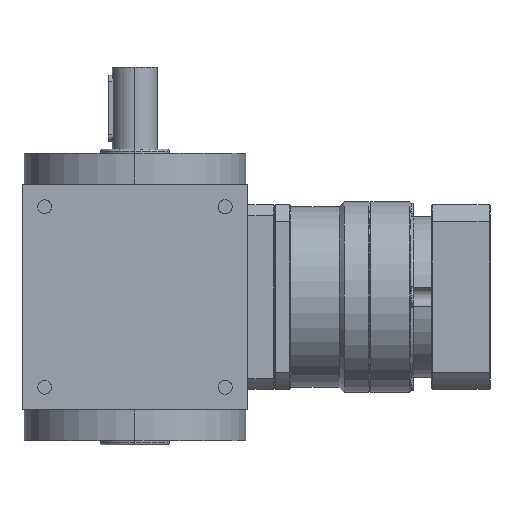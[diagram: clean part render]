
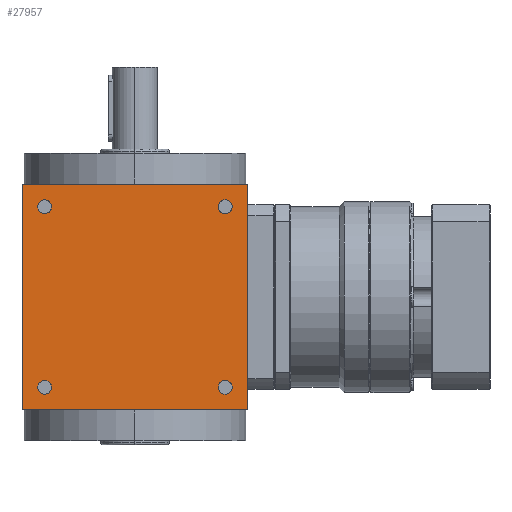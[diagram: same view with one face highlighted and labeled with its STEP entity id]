
A CAD part, left-side view. The second image highlights one B-rep face of the part: STEP entity #27957.
In plain terms, the highlighted planar face has unit normal (-1, 0, 0).
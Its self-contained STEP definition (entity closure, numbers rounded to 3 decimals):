
#157 = CARTESIAN_POINT ( 'NONE',  ( -55., 44., 47.4 ) ) ;
#469 = CARTESIAN_POINT ( 'NONE',  ( -55., -44., 40.6 ) ) ;
#543 = DIRECTION ( 'NONE',  ( 0., 0., -1. ) ) ;
#978 = CARTESIAN_POINT ( 'NONE',  ( -55., 55., -55. ) ) ;
#1478 = FACE_BOUND ( 'NONE', #9136, .T. ) ;
#1873 = FACE_BOUND ( 'NONE', #8179, .T. ) ;
#2036 = CARTESIAN_POINT ( 'NONE',  ( -55., 44., -44. ) ) ;
#2087 = CARTESIAN_POINT ( 'NONE',  ( -55., -44., 47.4 ) ) ;
#2206 = LINE ( 'NONE', #28965, #25909 ) ;
#2282 = CARTESIAN_POINT ( 'NONE',  ( -55., -55., 55. ) ) ;
#2339 = ORIENTED_EDGE ( 'NONE', *, *, #35438, .T. ) ;
#2461 = LINE ( 'NONE', #9025, #4173 ) ;
#2633 = EDGE_CURVE ( 'NONE', #25843, #31620, #12096, .T. ) ;
#3303 = DIRECTION ( 'NONE',  ( 0., 0., 1. ) ) ;
#3865 = CARTESIAN_POINT ( 'NONE',  ( -55., -44., 44. ) ) ;
#4158 = CARTESIAN_POINT ( 'NONE',  ( -55., 44., -47.4 ) ) ;
#4173 = VECTOR ( 'NONE', #17812, 1000. ) ;
#4400 = VERTEX_POINT ( 'NONE', #33563 ) ;
#4461 = FACE_BOUND ( 'NONE', #9550, .T. ) ;
#4853 = CARTESIAN_POINT ( 'NONE',  ( -55., 44., 40.6 ) ) ;
#6395 = ORIENTED_EDGE ( 'NONE', *, *, #2633, .T. ) ;
#6722 = DIRECTION ( 'NONE',  ( 1., 0., 0. ) ) ;
#6874 = ORIENTED_EDGE ( 'NONE', *, *, #13079, .T. ) ;
#7313 = DIRECTION ( 'NONE',  ( 0., 0., 1. ) ) ;
#7317 = CARTESIAN_POINT ( 'NONE',  ( -55., 55., -55. ) ) ;
#7626 = AXIS2_PLACEMENT_3D ( 'NONE', #25279, #25468, #17073 ) ;
#7647 = FACE_OUTER_BOUND ( 'NONE', #20160, .T. ) ;
#8179 = EDGE_LOOP ( 'NONE', ( #9876, #2339 ) ) ;
#8294 = VERTEX_POINT ( 'NONE', #4853 ) ;
#9025 = CARTESIAN_POINT ( 'NONE',  ( -55., -55., -55. ) ) ;
#9136 = EDGE_LOOP ( 'NONE', ( #38939, #27673 ) ) ;
#9284 = DIRECTION ( 'NONE',  ( 1., 0., 0. ) ) ;
#9549 = CIRCLE ( 'NONE', #28697, 3.4 ) ;
#9550 = EDGE_LOOP ( 'NONE', ( #6395, #34271 ) ) ;
#9876 = ORIENTED_EDGE ( 'NONE', *, *, #16976, .T. ) ;
#10584 = EDGE_LOOP ( 'NONE', ( #6874, #13128 ) ) ;
#10588 = EDGE_CURVE ( 'NONE', #37222, #31582, #22083, .T. ) ;
#12096 = CIRCLE ( 'NONE', #37635, 3.4 ) ;
#12643 = LINE ( 'NONE', #37060, #33753 ) ;
#13079 = EDGE_CURVE ( 'NONE', #33885, #8294, #14221, .T. ) ;
#13128 = ORIENTED_EDGE ( 'NONE', *, *, #21093, .T. ) ;
#14029 = CARTESIAN_POINT ( 'NONE',  ( -55., 44., 44. ) ) ;
#14221 = CIRCLE ( 'NONE', #20603, 3.4 ) ;
#15178 = DIRECTION ( 'NONE',  ( 1., 0., 0. ) ) ;
#16043 = AXIS2_PLACEMENT_3D ( 'NONE', #22080, #6722, #7313 ) ;
#16345 = VERTEX_POINT ( 'NONE', #31801 ) ;
#16940 = AXIS2_PLACEMENT_3D ( 'NONE', #19052, #33893, #24662 ) ;
#16976 = EDGE_CURVE ( 'NONE', #16345, #19380, #9549, .T. ) ;
#17031 = DIRECTION ( 'NONE',  ( -1., 0., 0. ) ) ;
#17073 = DIRECTION ( 'NONE',  ( 0., 0., 1. ) ) ;
#17160 = DIRECTION ( 'NONE',  ( 0., 1., 0. ) ) ;
#17180 = CIRCLE ( 'NONE', #7626, 3.4 ) ;
#17812 = DIRECTION ( 'NONE',  ( 0., 0., 1. ) ) ;
#17892 = CARTESIAN_POINT ( 'NONE',  ( -55., -44., -44. ) ) ;
#18406 = CIRCLE ( 'NONE', #23507, 3.4 ) ;
#19052 = CARTESIAN_POINT ( 'NONE',  ( -55., 44., 44. ) ) ;
#19278 = DIRECTION ( 'NONE',  ( 1., 0., 0. ) ) ;
#19380 = VERTEX_POINT ( 'NONE', #21096 ) ;
#19770 = CIRCLE ( 'NONE', #33839, 3.4 ) ;
#19911 = VERTEX_POINT ( 'NONE', #469 ) ;
#20160 = EDGE_LOOP ( 'NONE', ( #22094, #24470, #35955, #37233 ) ) ;
#20219 = PLANE ( 'NONE',  #38570 ) ;
#20603 = AXIS2_PLACEMENT_3D ( 'NONE', #14029, #19278, #24864 ) ;
#21093 = EDGE_CURVE ( 'NONE', #8294, #33885, #34183, .T. ) ;
#21096 = CARTESIAN_POINT ( 'NONE',  ( -55., -44., -47.4 ) ) ;
#21727 = EDGE_CURVE ( 'NONE', #29461, #37222, #2206, .T. ) ;
#22080 = CARTESIAN_POINT ( 'NONE',  ( -55., -44., -44. ) ) ;
#22083 = LINE ( 'NONE', #7317, #30939 ) ;
#22094 = ORIENTED_EDGE ( 'NONE', *, *, #10588, .T. ) ;
#22617 = DIRECTION ( 'NONE',  ( 0., 0., 1. ) ) ;
#23507 = AXIS2_PLACEMENT_3D ( 'NONE', #3865, #37058, #37248 ) ;
#23674 = EDGE_CURVE ( 'NONE', #19911, #36719, #18406, .T. ) ;
#24349 = DIRECTION ( 'NONE',  ( 0., 0., 1. ) ) ;
#24470 = ORIENTED_EDGE ( 'NONE', *, *, #24758, .T. ) ;
#24659 = EDGE_CURVE ( 'NONE', #36719, #19911, #17180, .T. ) ;
#24662 = DIRECTION ( 'NONE',  ( 0., 0., 1. ) ) ;
#24758 = EDGE_CURVE ( 'NONE', #31582, #4400, #12643, .T. ) ;
#24864 = DIRECTION ( 'NONE',  ( 0., 0., 1. ) ) ;
#25279 = CARTESIAN_POINT ( 'NONE',  ( -55., -44., 44. ) ) ;
#25303 = CARTESIAN_POINT ( 'NONE',  ( -55., 55., 55. ) ) ;
#25468 = DIRECTION ( 'NONE',  ( 1., 0., 0. ) ) ;
#25843 = VERTEX_POINT ( 'NONE', #31498 ) ;
#25909 = VECTOR ( 'NONE', #17160, 1000. ) ;
#26225 = FACE_BOUND ( 'NONE', #10584, .T. ) ;
#27549 = CARTESIAN_POINT ( 'NONE',  ( -55., 44., -44. ) ) ;
#27673 = ORIENTED_EDGE ( 'NONE', *, *, #23674, .T. ) ;
#27957 = ADVANCED_FACE ( 'NONE', ( #7647, #1478, #4461, #1873, #26225 ), #20219, .T. ) ;
#28028 = DIRECTION ( 'NONE',  ( 0., -1., 0. ) ) ;
#28177 = CIRCLE ( 'NONE', #16043, 3.4 ) ;
#28697 = AXIS2_PLACEMENT_3D ( 'NONE', #17892, #9284, #3303 ) ;
#28965 = CARTESIAN_POINT ( 'NONE',  ( -55., 55., 55. ) ) ;
#29461 = VERTEX_POINT ( 'NONE', #2282 ) ;
#30939 = VECTOR ( 'NONE', #543, 1000. ) ;
#31498 = CARTESIAN_POINT ( 'NONE',  ( -55., 44., -40.6 ) ) ;
#31582 = VERTEX_POINT ( 'NONE', #978 ) ;
#31620 = VERTEX_POINT ( 'NONE', #4158 ) ;
#31801 = CARTESIAN_POINT ( 'NONE',  ( -55., -44., -40.6 ) ) ;
#33563 = CARTESIAN_POINT ( 'NONE',  ( -55., -55., -55. ) ) ;
#33753 = VECTOR ( 'NONE', #28028, 1000. ) ;
#33839 = AXIS2_PLACEMENT_3D ( 'NONE', #27549, #15178, #24349 ) ;
#33885 = VERTEX_POINT ( 'NONE', #157 ) ;
#33893 = DIRECTION ( 'NONE',  ( 1., 0., 0. ) ) ;
#34183 = CIRCLE ( 'NONE', #16940, 3.4 ) ;
#34271 = ORIENTED_EDGE ( 'NONE', *, *, #37940, .T. ) ;
#34804 = EDGE_CURVE ( 'NONE', #4400, #29461, #2461, .T. ) ;
#35015 = DIRECTION ( 'NONE',  ( 0., 0., 1. ) ) ;
#35438 = EDGE_CURVE ( 'NONE', #19380, #16345, #28177, .T. ) ;
#35448 = CARTESIAN_POINT ( 'NONE',  ( -55., 55., -55. ) ) ;
#35609 = DIRECTION ( 'NONE',  ( 1., 0., 0. ) ) ;
#35955 = ORIENTED_EDGE ( 'NONE', *, *, #34804, .T. ) ;
#36719 = VERTEX_POINT ( 'NONE', #2087 ) ;
#37058 = DIRECTION ( 'NONE',  ( 1., 0., 0. ) ) ;
#37060 = CARTESIAN_POINT ( 'NONE',  ( -55., 55., -55. ) ) ;
#37222 = VERTEX_POINT ( 'NONE', #25303 ) ;
#37233 = ORIENTED_EDGE ( 'NONE', *, *, #21727, .T. ) ;
#37248 = DIRECTION ( 'NONE',  ( 0., 0., 1. ) ) ;
#37635 = AXIS2_PLACEMENT_3D ( 'NONE', #2036, #35609, #35015 ) ;
#37940 = EDGE_CURVE ( 'NONE', #31620, #25843, #19770, .T. ) ;
#38570 = AXIS2_PLACEMENT_3D ( 'NONE', #35448, #17031, #22617 ) ;
#38939 = ORIENTED_EDGE ( 'NONE', *, *, #24659, .T. ) ;
